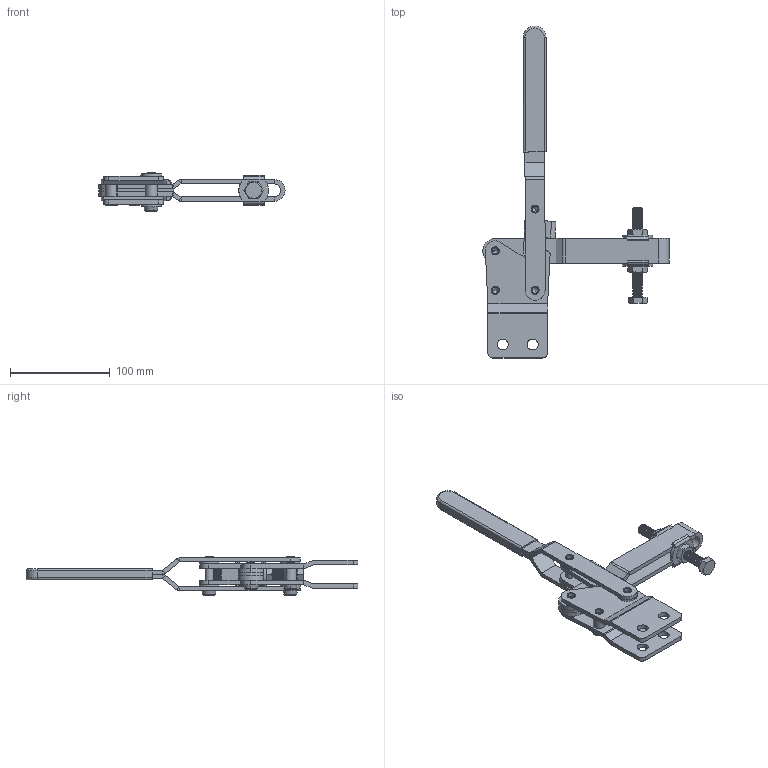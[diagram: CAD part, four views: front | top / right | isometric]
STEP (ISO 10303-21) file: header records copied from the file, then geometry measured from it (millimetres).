
FILE_DESCRIPTION (( 'STEP AP214' ), '1' );
FILE_NAME ('ISK-41BS’†0.STEP', '2015-06-30T06:43:19', ( '' ), ( '' ), 'SwSTEP 2.0', 'SolidWorks 2015', '' );
FILE_SCHEMA (( 'AUTOMOTIVE_DESIGN' ));
Length unit declared in the file: millimetre
Products named in the file (16): Base; Base-L; thin head rivets gb_GB_CONNECTING_PIECE_RIVET_THR 8X22; cone head semi-tubuler rivets gb_GB_OTHERRIVETS_TYPE89 8X22; cone head semi-tubuler rivets gb_GB_OTHERRIVETS_TYPE89 8X34; continuous thread hexagon head bolt_a_jis_JIS B 1180 Continuous thread hexagon head bolt A M10 x 90 --S; hexagon nut_3_jis_JIS B 1181 Hexagon nut - Class 3 Finished M10 --N; Washer_D10-22; Grip; Washer_兂20亊兂8.2t2; Collar12_8.2_12; Handle_Assy; Link; Arm; Arm Plate; ISK-41BS中0
Assembly tree (23 placements, depth 2):
  ISK-41BS中0
    Arm Plate
    Arm
    Link
    Handle_Assy
    Collar12_8.2_12  x2
    Washer_兂20亊兂8.2t2  x4
    Grip
    Washer_D10-22  x2
    hexagon nut_3_jis_JIS B 1181 Hexagon nut - Class 3 Finished M10 --N  x2
    continuous thread hexagon head bolt_a_jis_JIS B 1180 Continuous thread hexagon head bolt A M10 x 90 --S
    cone head semi-tubuler rivets gb_GB_OTHERRIVETS_TYPE89 8X34  x2
    cone head semi-tubuler rivets gb_GB_OTHERRIVETS_TYPE89 8X22  x2
    thin head rivets gb_GB_CONNECTING_PIECE_RIVET_THR 8X22
    Base-L
    Base
Bounding box: 187.02 x 333.31 x 38.24 mm (x, y, z)
Volume: 194718.8 mm3; surface area: 125793.9 mm2
Topology: 24 solids, 24 shells, 855 faces, 2052 edges, 1247 vertices
Faces by surface type: cone 308, cylinder 294, plane 227, torus 24, sphere 2
Entity records: 22708 total; most frequent: DIRECTION 4229, CARTESIAN_POINT 3874, ORIENTED_EDGE 3594, EDGE_CURVE 1797, AXIS2_PLACEMENT_3D 1707, VERTEX_POINT 1100, CIRCLE 944, VECTOR 815
